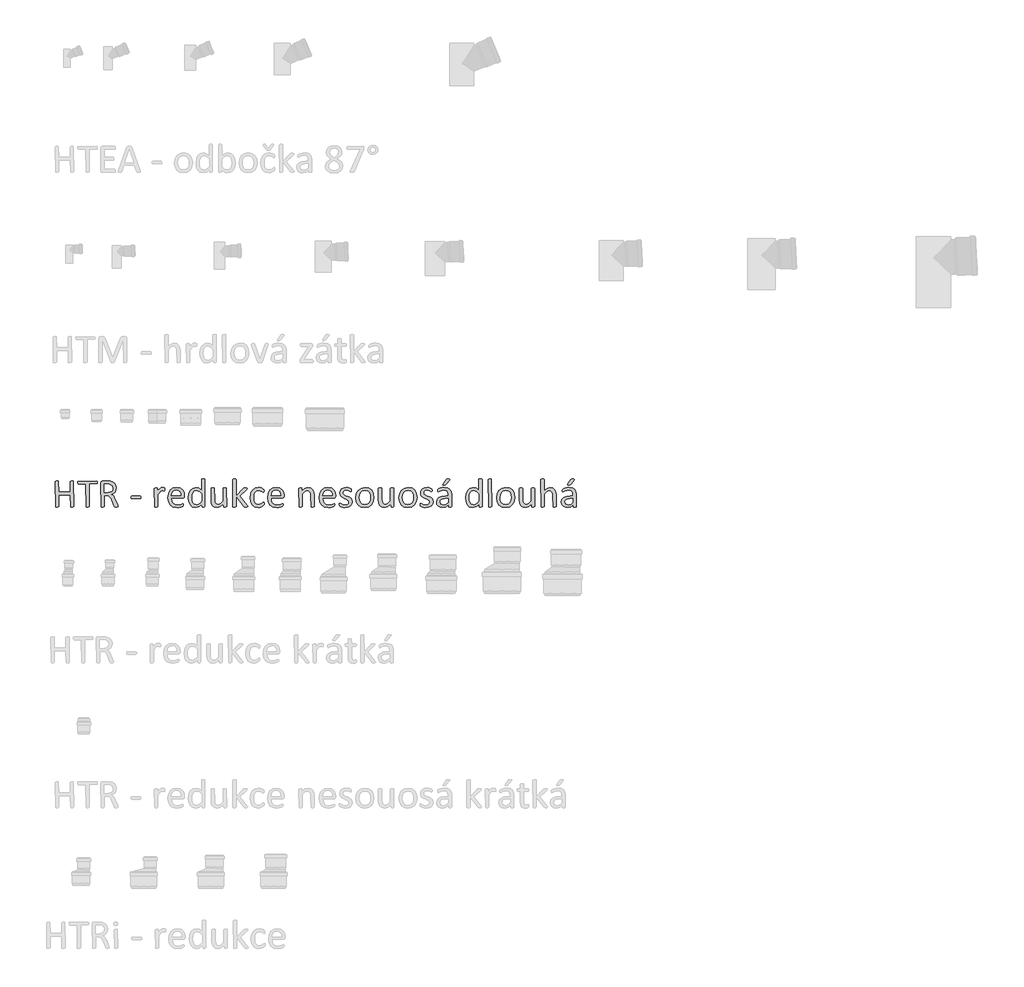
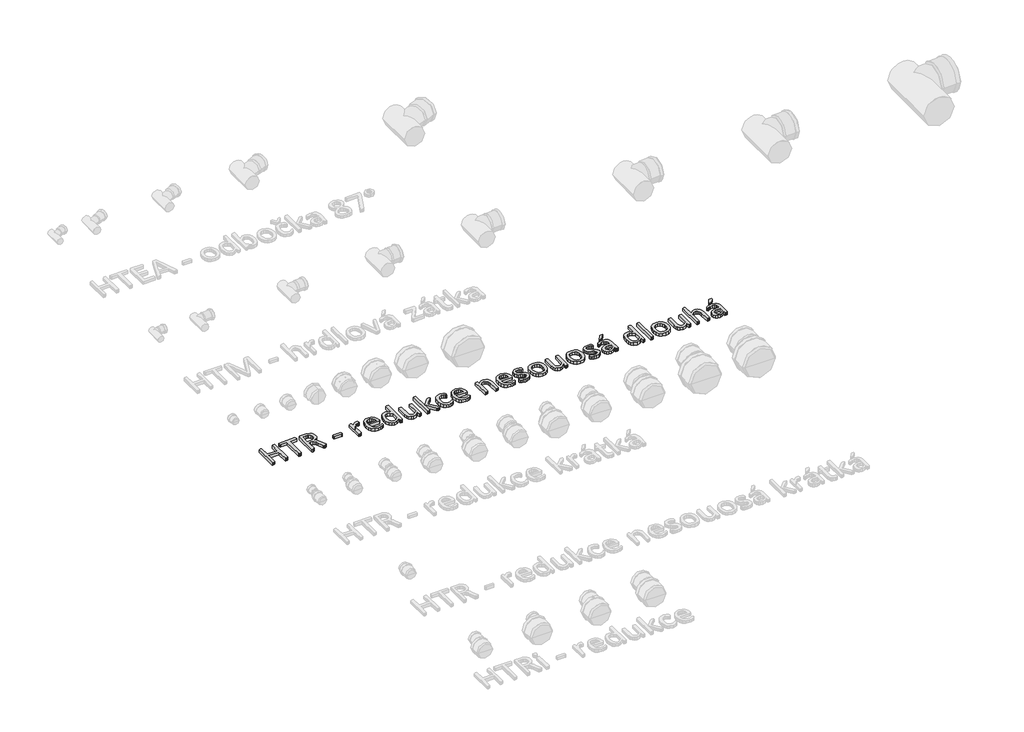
# One storey, part 21 of 26: 1 proxy.
"""IFC4 building model written with IfcOpenShell, lengths in millimetres."""

from ifc_helpers import new_model, si_unit, origin, origin_with_axes, place, context, project, spatial, polyline, outline, extrude, element, save

model = new_model("IFC4")

# Units and contexts
model_context = context("Model", 3, world=origin())
ifc_project = project(units=[si_unit("LENGTHUNIT", "METRE", prefix="MILLI")], contexts=[model_context])

# Site, building, storey
site = spatial("IfcSite", under=ifc_project)
building = spatial("IfcBuilding", under=site)
storey = spatial("IfcBuildingStorey", under=building, Name="Podlaží 1", Elevation=0.0)

# Proxy
placement = place(None, origin())
element("IfcBuildingElementProxy", 1, Name="120mm Arial", ObjectType="120mm Arial", at=placement, inside=storey, context=model_context, shape_type="SweptSolid", body=[
    extrude(outline(polyline([(-20460.0657483, 14581.6352271), (-20464.2817655, 14578.9029584), (-20468.1358927, 14578.66773), (-20472.1166815, 14578.9029584), (-20474.5775327, 14579.4457933), (-20476.2784151, 14634.2540162), (-20529.5486061, 14634.2540162), (-20529.5486061, 14581.5990381), (-20533.7465288, 14578.9029584), (-20537.6549395, 14578.66773), (-20541.5271613, 14578.9029584), (-20544.0603905, 14579.4638877), (-20545.7612729, 14696.1371865), (-20541.5271613, 14698.8694551), (-20537.6549395, 14699.1046835), (-20533.7465288, 14698.8694551), (-20531.2494886, 14698.3085258), (-20529.5486061, 14648.1505878), (-20476.2784151, 14648.1505878), (-20476.2784151, 14696.1371865), (-20472.1166815, 14698.8694551), (-20468.1358927, 14699.1046835), (-20464.2817655, 14698.8694551), (-20461.7666308, 14698.3085258), (-20460.0657483, 14581.6352271)])), origin_with_axes(), (0.0, 0.0, 1.0), 15.0),
    extrude(outline(polyline([(-20351.2092711, 14692.0478308), (-20351.390216, 14688.9174833), (-20351.9873343, 14686.782333), (-20388.2667952, 14685.208112), (-20388.2667952, 14581.6352271), (-20392.4647179, 14578.9029584), (-20396.3731287, 14578.66773), (-20400.2453504, 14578.9029584), (-20402.7785796, 14579.4638877), (-20404.4794621, 14685.208112), (-20438.3885442, 14685.208112), (-20441.3017578, 14688.9174833), (-20441.5369862, 14692.0478308), (-20441.3017578, 14695.2505563), (-20440.686545, 14697.4942735), (-20354.3939021, 14699.1046835), (-20352.0054288, 14697.4942735), (-20351.390216, 14695.2505563), (-20351.2092711, 14692.0478308)])), origin_with_axes(), (0.0, 0.0, 1.0), 15.0),
    extrude(outline(polyline([(-20255.4893967, 14581.5990381), (-20259.5606579, 14578.8486749), (-20264.0299979, 14578.66773), (-20267.9565032, 14578.8486749), (-20270.4173544, 14579.4457933), (-20271.8468194, 14580.5857464), (-20272.7153552, 14582.4313848), (-20283.7529966, 14610.2969059), (-20287.7518799, 14619.0184521), (-20292.6012043, 14625.8762654), (-20299.2056947, 14630.3456055), (-20308.3615088, 14631.937921), (-20318.7839374, 14631.937921), (-20318.7839374, 14581.5990381), (-20322.9818601, 14578.9029584), (-20326.8902709, 14578.66773), (-20330.7986816, 14578.9029584), (-20333.2957218, 14579.4638877), (-20334.9966043, 14692.6268546), (-20333.1328714, 14697.6752185), (-20329.1339881, 14699.1046835), (-20304.0188302, 14699.1046835), (-20296.6000875, 14698.8694551), (-20291.2441172, 14698.3447148), (-20279.1389006, 14694.544871), (-20270.3087874, 14687.9222861), (-20264.9709116, 14678.730283), (-20263.1976512, 14667.3307517), (-20264.7718722, 14656.4740551), (-20269.3316847, 14647.9877374), (-20276.47901, 14641.6184754), (-20285.815769, 14637.0405684), (-20280.4236097, 14633.7654649), (-20275.9180806, 14629.0247074), (-20271.9915754, 14622.6735399), (-20268.2641096, 14614.5672065), (-20257.51598, 14588.3301899), (-20255.8512866, 14583.6979994), (-20255.4893967, 14581.5990381)]), holes=[polyline([(-20279.410318, 14665.5936802), (-20282.5044765, 14677.2103455), (-20292.9088107, 14684.0500643), (-20298.0476471, 14684.9366946), (-20305.5749567, 14685.208112), (-20318.7839374, 14685.208112), (-20318.7839374, 14645.8344925), (-20303.4759953, 14645.8344925), (-20292.7640548, 14647.3182411), (-20285.2367452, 14651.4799747), (-20280.8216886, 14657.7587642), (-20279.410318, 14665.5936802)])]), origin_with_axes(), (0.0, 0.0, 1.0), 15.0),
    extrude(outline(polyline([(-20149.7089835, 14623.8677766), (-20150.5594247, 14619.307964), (-20153.0383704, 14618.0413494), (-20192.6291238, 14618.0413494), (-20195.1804474, 14619.344153), (-20196.0308887, 14623.8677766), (-20195.1804474, 14628.3552111), (-20192.6291238, 14629.6218257), (-20153.0383704, 14629.6218257), (-20149.9442119, 14626.5819507), (-20149.7089835, 14623.8677766)])), origin_with_axes(), (0.0, 0.0, 1.0), 15.0),
    extrude(outline(polyline([(-20038.536411, 14659.7310641), (-20038.6268835, 14656.4378662), (-20038.9887733, 14654.3027158), (-20042.5352942, 14653.0903847), (-20044.869484, 14653.9227315), (-20047.7826975, 14654.7188892), (-20051.2749349, 14655.0988736), (-20055.6899915, 14654.1036764), (-20060.2317096, 14650.8466674), (-20065.2076955, 14644.8392954), (-20070.9617446, 14635.6653868), (-20070.9617446, 14581.4904711), (-20075.0872893, 14578.8486749), (-20079.104267, 14578.66773), (-20083.0488668, 14578.8486749), (-20085.545907, 14579.3915098), (-20087.1744114, 14663.8566088), (-20083.4469456, 14666.5345939), (-20079.7918578, 14666.6793499), (-20076.2091479, 14666.5345939), (-20074.0016197, 14665.9917591), (-20072.5178711, 14651.8418646), (-20066.2571761, 14660.4186549), (-20060.7021664, 14665.6479637), (-20055.5271411, 14668.2716654), (-20050.3340212, 14668.9954451), (-20047.6922251, 14668.8687837), (-20044.5799721, 14668.3802323), (-20041.648664, 14667.5659801), (-20039.8030256, 14666.6793499), (-20038.5726, 14662.9880731), (-20038.536411, 14659.7310641)])), origin_with_axes(), (0.0, 0.0, 1.0), 15.0),
    extrude(outline(polyline([(-19948.2086958, 14626.9800296), (-19950.0000508, 14621.8773822), (-19954.107501, 14620.3574447), (-20008.4271726, 14620.3574447), (-20007.0700855, 14606.967519), (-20002.5645565, 14596.7622242), (-19994.3496561, 14590.2120173), (-19981.9730221, 14587.932111), (-19971.6953493, 14588.9996862), (-19963.8785278, 14591.4062539), (-19958.4682741, 14593.8128217), (-19955.2655486, 14594.8803968), (-19952.9675478, 14591.9852777), (-19952.8408864, 14589.3434816), (-19952.9313588, 14587.4073707), (-19957.3826044, 14582.0152114), (-19963.7337719, 14579.5181712), (-19972.781019, 14577.3287374), (-19983.7462825, 14576.3516347), (-20001.4246033, 14579.2467538), (-20014.1812218, 14587.8597331), (-20021.9980433, 14602.208667), (-20024.6398394, 14622.2392721), (-20021.8713818, 14641.7813258), (-20013.8917099, 14656.4740551), (-20001.2979419, 14665.7565307), (-19984.7595742, 14668.9954451), (-19968.1126395, 14665.8650976), (-19956.8035806, 14657.4330633), (-19950.2895627, 14645.0021458), (-19948.2086958, 14629.7665817), (-19948.2086958, 14626.9800296)]), holes=[polyline([(-19964.4213627, 14631.937921), (-19965.5929812, 14642.5639127), (-19969.6144825, 14650.6295335), (-19976.386347, 14655.71861), (-19985.8090548, 14657.4149688), (-19995.4534202, 14655.3160075), (-20002.3836115, 14649.7248088), (-20006.7081957, 14641.6003809), (-20008.4271726, 14631.937921), (-19964.4213627, 14631.937921)])]), origin_with_axes(), (0.0, 0.0, 1.0), 15.0),
    extrude(outline(polyline([(-19853.5744911, 14581.5628491), (-19856.9581615, 14578.8486749), (-19860.2694539, 14578.66773), (-19863.7074078, 14578.8486749), (-19865.9511251, 14579.3191318), (-19867.6158186, 14591.6233879), (-19881.0600278, 14580.386707), (-19896.3136864, 14576.3516347), (-19911.7301955, 14579.9524391), (-19922.0621517, 14589.687277), (-19927.8523898, 14604.1266834), (-19929.6799338, 14621.5878703), (-19927.4000275, 14641.2203965), (-19920.6688756, 14656.1664487), (-19909.6312342, 14665.6660582), (-19894.39567, 14668.9954451), (-19881.2409727, 14665.7565307), (-19869.461457, 14656.2569212), (-19869.461457, 14705.3653785), (-19867.7967635, 14707.5729068), (-19865.2997233, 14708.1338361), (-19861.4636906, 14708.3690646), (-19857.4467128, 14708.1338361), (-19855.0039561, 14707.5729068), (-19853.683058, 14706.6500876), (-19853.5744911, 14581.5628491)]), holes=[polyline([(-19869.461457, 14639.7547425), (-19881.0781223, 14651.1723683), (-19892.7671656, 14655.0988736), (-19902.3572475, 14652.3485105), (-19908.7626984, 14645.0926183), (-19912.3454083, 14634.8873235), (-19913.4672669, 14623.3249417), (-19912.5263532, 14611.0930636), (-19909.2512498, 14600.48969), (-19903.0629328, 14593.0528529), (-19893.3823784, 14590.2482063), (-19887.7007072, 14591.0624585), (-19882.091414, 14593.7585382), (-19876.1021364, 14598.6440516), (-19869.461457, 14606.0627943), (-19869.461457, 14639.7547425)])]), origin_with_axes(), (0.0, 0.0, 1.0), 15.0),
    extrude(outline(polyline([(-19753.656694, 14581.4904711), (-19757.5108213, 14578.8486749), (-19760.9668697, 14578.66773), (-19764.6581465, 14578.8486749), (-19766.9018638, 14579.3915098), (-19768.3132343, 14592.3833566), (-19782.1917114, 14580.1876675), (-19796.0701885, 14576.3516347), (-19809.894382, 14579.1381869), (-19818.9778181, 14586.6835909), (-19823.953804, 14597.7936104), (-19825.4556471, 14613.228214), (-19825.4556471, 14663.8204198), (-19823.7909536, 14665.9736646), (-19821.2577244, 14666.5345939), (-19817.3493137, 14666.6793499), (-19813.4409029, 14666.5345939), (-19810.9619572, 14665.9917591), (-19809.6410591, 14665.0870344), (-19809.2429802, 14615.7614432), (-19808.2296886, 14604.1628724), (-19805.1174356, 14596.7260352), (-19799.8338432, 14591.9490888), (-19792.3789116, 14590.2482063), (-19781.4317426, 14594.3194675), (-19769.8693608, 14606.2799282), (-19769.8693608, 14663.8566088), (-19768.2046674, 14665.9917591), (-19765.7076272, 14666.5345939), (-19761.7630274, 14666.6793499), (-19757.8546167, 14666.5345939), (-19755.4118599, 14665.9917591), (-19754.0909619, 14665.0870344), (-19753.656694, 14581.4904711)])), origin_with_axes(), (0.0, 0.0, 1.0), 15.0),
    extrude(outline(polyline([(-19656.3806931, 14581.5990381), (-19660.4519543, 14578.8486749), (-19664.4508375, 14578.66773), (-19668.5763822, 14578.812486), (-19671.3267453, 14579.2648483), (-19673.1361947, 14580.169573), (-19674.4028093, 14581.5990381), (-19709.6508841, 14627.1609745), (-19709.6508841, 14581.4904711), (-19713.7764287, 14578.8486749), (-19717.7934065, 14578.66773), (-19721.7380062, 14578.8486749), (-19724.2350464, 14579.4096043), (-19725.8635509, 14705.4015675), (-19721.7380062, 14708.1881196), (-19717.7934065, 14708.3690646), (-19713.7764287, 14708.1881196), (-19711.333672, 14707.6271903), (-19710.0489629, 14706.6862766), (-19709.6508841, 14629.2599358), (-19677.4426844, 14663.4947189), (-19675.8322744, 14664.9965619), (-19673.805691, 14665.9917591), (-19671.0191389, 14666.5345939), (-19667.1288226, 14666.6793499), (-19663.1480339, 14666.5345939), (-19660.5605212, 14666.0822316), (-19659.1310562, 14665.2679793), (-19659.3300956, 14661.739553), (-19661.4471515, 14659.1882293), (-19693.4382172, 14629.3685028), (-19658.6605994, 14585.9055277), (-19656.9054334, 14583.390393), (-19656.3806931, 14581.5990381)])), origin_with_axes(), (0.0, 0.0, 1.0), 15.0),
    extrude(outline(polyline([(-19579.9495495, 14595.3146647), (-19580.040022, 14592.7814355), (-19580.3657229, 14590.9719861), (-19582.3561172, 14587.3349927), (-19586.2464335, 14583.8065664), (-19592.416656, 14580.0610061), (-19599.8534931, 14577.3830209), (-19608.1769605, 14576.3516347), (-19623.8829815, 14579.3553208), (-19635.3367963, 14588.1311505), (-19642.3755546, 14602.281045), (-19644.8002168, 14621.6240593), (-19641.8327197, 14643.0660349), (-19633.7082918, 14657.7406697), (-19621.5668862, 14666.2269875), (-19606.439889, 14668.9954451), (-19598.8040125, 14668.1811929), (-19592.0004827, 14666.0460426), (-19586.4635674, 14663.0061676), (-19582.9532355, 14660.056765), (-19581.4513925, 14658.1206541), (-19580.7638017, 14656.5826221), (-19580.4019119, 14654.6827002), (-19580.3114394, 14652.0228096), (-19581.1256916, 14647.2096741), (-19583.0979915, 14645.8344925), (-19586.228339, 14647.2820521), (-19590.6976791, 14650.4666831), (-19597.2659805, 14653.651314), (-19606.3313221, 14655.0988736), (-19615.8535497, 14652.9999123), (-19622.8515953, 14646.7030283), (-19627.1535613, 14636.4072611), (-19628.58755, 14622.3116501), (-19627.1038014, 14608.3065115), (-19622.7249338, 14598.2459727), (-19615.6137976, 14592.2205062), (-19605.9694322, 14590.2482063), (-19596.9402796, 14592.0757502), (-19590.2091277, 14596.0927279), (-19585.4140868, 14600.0554222), (-19582.3742117, 14601.8286826), (-19580.076211, 14598.2640672), (-19579.9495495, 14595.3146647)])), origin_with_axes(), (0.0, 0.0, 1.0), 15.0),
    extrude(outline(polyline([(-19487.3057391, 14626.9800296), (-19489.097094, 14621.8773822), (-19493.2045442, 14620.3574447), (-19547.5242159, 14620.3574447), (-19546.1671288, 14606.967519), (-19541.6615997, 14596.7622242), (-19533.4466994, 14590.2120173), (-19521.0700653, 14587.932111), (-19510.7923926, 14588.9996862), (-19502.9755711, 14591.4062539), (-19497.5653173, 14593.8128217), (-19494.3625918, 14594.8803968), (-19492.0645911, 14591.9852777), (-19491.9379296, 14589.3434816), (-19492.0284021, 14587.4073707), (-19496.4796477, 14582.0152114), (-19502.8308151, 14579.5181712), (-19511.8780623, 14577.3287374), (-19522.8433257, 14576.3516347), (-19540.5216466, 14579.2467538), (-19553.278265, 14587.8597331), (-19561.0950865, 14602.208667), (-19563.7368827, 14622.2392721), (-19560.9684251, 14641.7813258), (-19552.9887531, 14656.4740551), (-19540.3949851, 14665.7565307), (-19523.8566174, 14668.9954451), (-19507.2096827, 14665.8650976), (-19495.9006239, 14657.4330633), (-19489.3866059, 14645.0021458), (-19487.3057391, 14629.7665817), (-19487.3057391, 14626.9800296)]), holes=[polyline([(-19503.5184059, 14631.937921), (-19504.6900244, 14642.5639127), (-19508.7115258, 14650.6295335), (-19515.4833902, 14655.71861), (-19524.9060981, 14657.4149688), (-19534.5504635, 14655.3160075), (-19541.4806548, 14649.7248088), (-19545.8052389, 14641.6003809), (-19547.5242159, 14631.937921), (-19503.5184059, 14631.937921)])]), origin_with_axes(), (0.0, 0.0, 1.0), 15.0),
    extrude(outline(polyline([(-19348.3400235, 14581.5266601), (-19352.4655682, 14578.8486749), (-19356.4101679, 14578.66773), (-19360.4271456, 14578.8486749), (-19362.8699024, 14579.3915098), (-19364.5526903, 14629.8751486), (-19365.6202655, 14641.238491), (-19368.714424, 14648.6753281), (-19373.9799218, 14653.4522746), (-19381.4529479, 14655.0988736), (-19392.4363059, 14651.0638014), (-19403.9263097, 14639.2119077), (-19403.9263097, 14581.5266601), (-19408.0518544, 14578.8486749), (-19412.0688321, 14578.66773), (-19416.0134319, 14578.8486749), (-19418.5104721, 14579.3915098), (-19420.1389766, 14663.8566088), (-19416.4115108, 14666.5345939), (-19412.7564229, 14666.6793499), (-19409.1737131, 14666.5345939), (-19406.9661848, 14665.9917591), (-19405.4824362, 14652.9637233), (-19391.6401482, 14665.1413179), (-19377.7254821, 14668.9954451), (-19363.9012885, 14666.172704), (-19354.8178524, 14658.6273), (-19349.8418665, 14647.571564), (-19348.3400235, 14632.3359999), (-19348.3400235, 14581.5266601)])), origin_with_axes(), (0.0, 0.0, 1.0), 15.0),
    extrude(outline(polyline([(-19248.7479273, 14626.9800296), (-19250.5392822, 14621.8773822), (-19254.6467324, 14620.3574447), (-19308.9664041, 14620.3574447), (-19307.609317, 14606.967519), (-19303.103788, 14596.7622242), (-19294.8888876, 14590.2120173), (-19282.5122535, 14587.932111), (-19272.2345808, 14588.9996862), (-19264.4177593, 14591.4062539), (-19259.0075055, 14593.8128217), (-19255.8047801, 14594.8803968), (-19253.5067793, 14591.9852777), (-19253.3801178, 14589.3434816), (-19253.4705903, 14587.4073707), (-19257.9218359, 14582.0152114), (-19264.2730034, 14579.5181712), (-19273.3202505, 14577.3287374), (-19284.285514, 14576.3516347), (-19301.9638348, 14579.2467538), (-19314.7204532, 14587.8597331), (-19322.5372747, 14602.208667), (-19325.1790709, 14622.2392721), (-19322.4106133, 14641.7813258), (-19314.4309413, 14656.4740551), (-19301.8371734, 14665.7565307), (-19285.2988056, 14668.9954451), (-19268.651871, 14665.8650976), (-19257.3428121, 14657.4330633), (-19250.8287942, 14645.0021458), (-19248.7479273, 14629.7665817), (-19248.7479273, 14626.9800296)]), holes=[polyline([(-19264.9605941, 14631.937921), (-19266.1322126, 14642.5639127), (-19270.153714, 14650.6295335), (-19276.9255784, 14655.71861), (-19286.3482863, 14657.4149688), (-19295.9926517, 14655.3160075), (-19302.922843, 14649.7248088), (-19307.2474271, 14641.6003809), (-19308.9664041, 14631.937921), (-19264.9605941, 14631.937921)])]), origin_with_axes(), (0.0, 0.0, 1.0), 15.0),
    extrude(outline(polyline([(-19172.3167837, 14603.4209981), (-19174.7233515, 14591.8948053), (-19181.5811648, 14583.3722985), (-19192.1664439, 14578.1248952), (-19205.6830311, 14576.3516347), (-19214.3502938, 14577.1839815), (-19221.714753, 14579.3010373), (-19227.2335737, 14581.9790224), (-19230.5448661, 14584.4941571), (-19232.0648037, 14587.1540478), (-19232.5352605, 14591.3700649), (-19232.3543156, 14594.1023336), (-19231.8838587, 14595.8936885), (-19226.9259673, 14595.7489325), (-19222.0042649, 14592.5643016), (-19215.0740736, 14589.3796706), (-19205.900165, 14587.932111), (-19198.8433123, 14588.8187413), (-19193.3606805, 14591.4424429), (-19189.7779707, 14595.8574995), (-19188.5294506, 14602.1905725), (-19190.3208055, 14608.1798501), (-19195.0796575, 14612.5044342), (-19201.7203368, 14615.8338211), (-19209.3200244, 14618.8736962), (-19216.9739955, 14622.4745005), (-19223.6689583, 14627.3962029), (-19228.4278103, 14634.3263942), (-19230.2191652, 14643.9888541), (-19228.3011489, 14653.4884636), (-19222.5470997, 14661.4500411), (-19212.9570178, 14666.9326728), (-19199.4947141, 14668.9954451), (-19192.7635622, 14668.3802323), (-19186.6838121, 14666.8241058), (-19182.0516216, 14664.7975225), (-19179.1565026, 14662.8795061), (-19177.853699, 14661.5043245), (-19177.0937302, 14658.6634889), (-19176.9489743, 14656.2569212), (-19177.0937302, 14653.6332196), (-19177.5641871, 14651.8056756), (-19181.9430547, 14651.5704472), (-19186.1590718, 14653.940826), (-19192.2388219, 14656.3112047), (-19200.2184938, 14657.4149688), (-19207.3115356, 14656.4921496), (-19212.341805, 14653.868448), (-19215.309302, 14649.8514703), (-19216.3225937, 14644.8212009), (-19214.4045773, 14638.6871673), (-19209.3924024, 14634.3263942), (-19202.3536441, 14630.9608183), (-19194.3196887, 14627.8847543), (-19186.2314498, 14624.3201389), (-19179.1565026, 14619.5431924), (-19174.1986111, 14612.7939461), (-19172.3167837, 14603.4209981)])), origin_with_axes(), (0.0, 0.0, 1.0), 15.0),
    extrude(outline(polyline([(-19072.7246876, 14623.5782647), (-19075.4026727, 14604.5971402), (-19083.4185336, 14589.651088), (-19096.7722704, 14579.8619666), (-19115.3553159, 14576.3516347), (-19133.2688652, 14579.4457933), (-19146.0073891, 14588.4387569), (-19153.6070767, 14602.7695963), (-19156.1041169, 14621.8773822), (-19153.4623208, 14640.8585066), (-19145.5007433, 14655.7864644), (-19132.2012901, 14665.5213023), (-19113.5820555, 14668.9954451), (-19095.6504117, 14665.9012866), (-19082.9118878, 14656.908323), (-19075.2760112, 14642.5774836), (-19072.7246876, 14623.5782647)]), holes=[polyline([(-19088.9373544, 14622.492595), (-19090.1858745, 14635.0682685), (-19094.2933247, 14645.4545082), (-19102.0196737, 14652.5113609), (-19114.1972683, 14655.0988736), (-19125.7596501, 14652.7284948), (-19133.7212276, 14646.033532), (-19138.3715126, 14635.7920483), (-19139.8914501, 14622.8544849), (-19138.64293, 14610.2064334), (-19134.4992908, 14599.8563827), (-19126.7186583, 14592.835719), (-19114.5591582, 14590.2482063), (-19103.0329654, 14592.618585), (-19095.0171044, 14599.2592644), (-19090.4030084, 14609.4645592), (-19088.9373544, 14622.492595)])]), origin_with_axes(), (0.0, 0.0, 1.0), 15.0),
    extrude(outline(polyline([(-18980.0808772, 14581.4904711), (-18983.9350044, 14578.8486749), (-18987.3910528, 14578.66773), (-18991.0823296, 14578.8486749), (-18993.3260469, 14579.3915098), (-18994.7374175, 14592.3833566), (-19008.6158945, 14580.1876675), (-19022.4943716, 14576.3516347), (-19036.3185652, 14579.1381869), (-19045.4020013, 14586.6835909), (-19050.3779872, 14597.7936104), (-19051.8798302, 14613.228214), (-19051.8798302, 14663.8204198), (-19050.2151368, 14665.9736646), (-19047.6819076, 14666.5345939), (-19043.7734968, 14666.6793499), (-19039.8650861, 14666.5345939), (-19037.3861404, 14665.9917591), (-19036.0652423, 14665.0870344), (-19035.6671634, 14615.7614432), (-19034.6538717, 14604.1628724), (-19031.5416187, 14596.7260352), (-19026.2580264, 14591.9490888), (-19018.8030948, 14590.2482063), (-19007.8559258, 14594.3194675), (-18996.293544, 14606.2799282), (-18996.293544, 14663.8566088), (-18994.6288505, 14665.9917591), (-18992.1318103, 14666.5345939), (-18988.1872106, 14666.6793499), (-18984.2787998, 14666.5345939), (-18981.8360431, 14665.9917591), (-18980.515145, 14665.0870344), (-18980.0808772, 14581.4904711)])), origin_with_axes(), (0.0, 0.0, 1.0), 15.0),
    extrude(outline(polyline([(-18873.5404952, 14623.5782647), (-18876.2184803, 14604.5971402), (-18884.2343413, 14589.651088), (-18897.588078, 14579.8619666), (-18916.1711236, 14576.3516347), (-18934.0846729, 14579.4457933), (-18946.8231968, 14588.4387569), (-18954.4228844, 14602.7695963), (-18956.9199246, 14621.8773822), (-18954.2781284, 14640.8585066), (-18946.3165509, 14655.7864644), (-18933.0170977, 14665.5213023), (-18914.3978631, 14668.9954451), (-18896.4662194, 14665.9012866), (-18883.7276954, 14656.908323), (-18876.0918189, 14642.5774836), (-18873.5404952, 14623.5782647)]), holes=[polyline([(-18889.753162, 14622.492595), (-18891.0016821, 14635.0682685), (-18895.1091323, 14645.4545082), (-18902.8354813, 14652.5113609), (-18915.0130759, 14655.0988736), (-18926.5754578, 14652.7284948), (-18934.5370352, 14646.033532), (-18939.1873202, 14635.7920483), (-18940.7072577, 14622.8544849), (-18939.4587376, 14610.2064334), (-18935.3150985, 14599.8563827), (-18927.5344659, 14592.835719), (-18915.3749658, 14590.2482063), (-18903.848773, 14592.618585), (-18895.8329121, 14599.2592644), (-18891.2188161, 14609.4645592), (-18889.753162, 14622.492595)])]), origin_with_axes(), (0.0, 0.0, 1.0), 15.0),
    extrude(outline(polyline([(-18799.4254469, 14603.4209981), (-18801.8320146, 14591.8948053), (-18808.6898279, 14583.3722985), (-18819.275107, 14578.1248952), (-18832.7916942, 14576.3516347), (-18841.4589569, 14577.1839815), (-18848.8234161, 14579.3010373), (-18854.3422368, 14581.9790224), (-18857.6535293, 14584.4941571), (-18859.1734668, 14587.1540478), (-18859.6439236, 14591.3700649), (-18859.4629787, 14594.1023336), (-18858.9925218, 14595.8936885), (-18854.0346304, 14595.7489325), (-18849.112928, 14592.5643016), (-18842.1827367, 14589.3796706), (-18833.0088281, 14587.932111), (-18825.9519754, 14588.8187413), (-18820.4693437, 14591.4424429), (-18816.8866338, 14595.8574995), (-18815.6381137, 14602.1905725), (-18817.4294686, 14608.1798501), (-18822.1883206, 14612.5044342), (-18828.829, 14615.8338211), (-18836.4286876, 14618.8736962), (-18844.0826586, 14622.4745005), (-18850.7776215, 14627.3962029), (-18855.5364735, 14634.3263942), (-18857.3278284, 14643.9888541), (-18855.409812, 14653.4884636), (-18849.6557628, 14661.4500411), (-18840.0656809, 14666.9326728), (-18826.6033772, 14668.9954451), (-18819.8722253, 14668.3802323), (-18813.7924753, 14666.8241058), (-18809.1602848, 14664.7975225), (-18806.2651657, 14662.8795061), (-18804.9623621, 14661.5043245), (-18804.2023934, 14658.6634889), (-18804.0576374, 14656.2569212), (-18804.2023934, 14653.6332196), (-18804.6728502, 14651.8056756), (-18809.0517178, 14651.5704472), (-18813.267735, 14653.940826), (-18819.347485, 14656.3112047), (-18827.327157, 14657.4149688), (-18834.4201987, 14656.4921496), (-18839.4504681, 14653.868448), (-18842.4179651, 14649.8514703), (-18843.4312568, 14644.8212009), (-18841.5132404, 14638.6871673), (-18836.5010655, 14634.3263942), (-18829.4623073, 14630.9608183), (-18821.4283518, 14627.8847543), (-18813.3401129, 14624.3201389), (-18806.2651657, 14619.5431924), (-18801.3072743, 14612.7939461), (-18799.4254469, 14603.4209981)])), origin_with_axes(), (0.0, 0.0, 1.0), 15.0),
    extrude(outline(polyline([(-18739.2431591, 14705.0758666), (-18737.9041665, 14706.6681821), (-18736.0404336, 14707.6452848), (-18733.308165, 14708.1881196), (-18729.3997543, 14708.3690646), (-18725.0570756, 14708.0614582), (-18722.7409804, 14707.1748279), (-18722.9943033, 14704.2435199), (-18740.2926398, 14683.4348515), (-18741.6859158, 14682.0053865), (-18743.1153809, 14681.1549453), (-18745.2143422, 14680.7025829), (-18748.4351622, 14680.5759214), (-18751.7645491, 14680.8473389), (-18753.5016206, 14681.5711186), (-18753.1035417, 14684.4119542), (-18739.2431591, 14705.0758666)])), origin_with_axes(), (0.0, 0.0, 1.0), 15.0),
    extrude(outline(polyline([(-18713.7299223, 14581.4542821), (-18714.52608, 14579.7714942), (-18716.6974193, 14578.9391474), (-18720.750586, 14578.66773), (-18724.8580362, 14578.9391474), (-18727.083659, 14579.7714942), (-18727.7712498, 14581.4542821), (-18727.7712498, 14589.7777495), (-18739.9669389, 14580.1514785), (-18754.2254003, 14576.3516347), (-18766.185861, 14578.0706117), (-18775.2873916, 14583.0465976), (-18781.1319132, 14591.044364), (-18783.2127801, 14601.8286826), (-18780.3357555, 14614.0967497), (-18772.0846661, 14622.7459179), (-18758.9299688, 14627.9028488), (-18741.4144984, 14629.6218257), (-18729.9425891, 14629.6218257), (-18729.9425891, 14636.5339225), (-18730.9558808, 14645.5811696), (-18734.2128897, 14652.1313765), (-18740.0212224, 14656.0759763), (-18748.7970521, 14657.4149688), (-18758.8394963, 14655.9674093), (-18766.6201289, 14652.7827783), (-18772.2113276, 14649.5981473), (-18775.5407145, 14648.1505878), (-18778.3996446, 14651.6790142), (-18778.5805895, 14654.3389048), (-18778.2548886, 14658.1387486), (-18776.6625732, 14660.7986393), (-18772.3198945, 14663.5128134), (-18765.2268528, 14666.1907985), (-18756.4510231, 14668.1992874), (-18746.8428467, 14668.9954451), (-18731.4625266, 14666.9507673), (-18721.2029484, 14660.9795842), (-18715.5031827, 14651.2266518), (-18713.7299223, 14637.6195922), (-18713.7299223, 14581.4542821)]), holes=[polyline([(-18729.9425891, 14618.0413494), (-18742.825869, 14618.0413494), (-18753.5739985, 14616.9737743), (-18761.1555916, 14613.8253323), (-18765.5887427, 14608.8312519), (-18767.0001132, 14602.1181945), (-18762.9469465, 14591.7681438), (-18751.5836042, 14587.932111), (-18740.5821517, 14590.9900806), (-18729.9425891, 14600.3449341), (-18729.9425891, 14618.0413494)])]), origin_with_axes(), (0.0, 0.0, 1.0), 15.0),
    extrude(outline(polyline([(-18572.7738123, 14581.5628491), (-18576.1574827, 14578.8486749), (-18579.4687752, 14578.66773), (-18582.9067291, 14578.8486749), (-18585.1504463, 14579.3191318), (-18586.8151398, 14591.6233879), (-18600.259349, 14580.386707), (-18615.5130076, 14576.3516347), (-18630.9295167, 14579.9524391), (-18641.2614729, 14589.687277), (-18647.0517111, 14604.1266834), (-18648.879255, 14621.5878703), (-18646.5993487, 14641.2203965), (-18639.8681969, 14656.1664487), (-18628.8305554, 14665.6660582), (-18613.5949913, 14668.9954451), (-18600.440294, 14665.7565307), (-18588.6607782, 14656.2569212), (-18588.6607782, 14705.3653785), (-18586.9960847, 14707.5729068), (-18584.4990445, 14708.1338361), (-18580.6630118, 14708.3690646), (-18576.6460341, 14708.1338361), (-18574.2032773, 14707.5729068), (-18572.8823793, 14706.6500876), (-18572.7738123, 14581.5628491)]), holes=[polyline([(-18588.6607782, 14639.7547425), (-18600.2774435, 14651.1723683), (-18611.9664868, 14655.0988736), (-18621.5565687, 14652.3485105), (-18627.9620197, 14645.0926183), (-18631.5447295, 14634.8873235), (-18632.6665882, 14623.3249417), (-18631.7256745, 14611.0930636), (-18628.450571, 14600.48969), (-18622.262254, 14593.0528529), (-18612.5816996, 14590.2482063), (-18606.9000284, 14591.0624585), (-18601.2907352, 14593.7585382), (-18595.3014576, 14598.6440516), (-18588.6607782, 14606.0627943), (-18588.6607782, 14639.7547425)])]), origin_with_axes(), (0.0, 0.0, 1.0), 15.0),
    extrude(outline(polyline([(-18528.4423015, 14581.5266601), (-18532.5678461, 14578.8486749), (-18536.5848239, 14578.66773), (-18540.5294236, 14578.8486749), (-18543.0264638, 14579.4096043), (-18544.6549683, 14705.4015675), (-18540.5294236, 14708.1881196), (-18536.5848239, 14708.3690646), (-18532.5678461, 14708.1881196), (-18530.1250894, 14707.6271903), (-18528.4423015, 14581.5266601)])), origin_with_axes(), (0.0, 0.0, 1.0), 15.0),
    extrude(outline(polyline([(-18421.9019195, 14623.5782647), (-18424.5799046, 14604.5971402), (-18432.5957656, 14589.651088), (-18445.9495023, 14579.8619666), (-18464.5325479, 14576.3516347), (-18482.4460972, 14579.4457933), (-18495.1846211, 14588.4387569), (-18502.7843087, 14602.7695963), (-18505.2813489, 14621.8773822), (-18502.6395527, 14640.8585066), (-18494.6779752, 14655.7864644), (-18481.378522, 14665.5213023), (-18462.7592874, 14668.9954451), (-18444.8276437, 14665.9012866), (-18432.0891197, 14656.908323), (-18424.4532432, 14642.5774836), (-18421.9019195, 14623.5782647)]), holes=[polyline([(-18438.1145863, 14622.492595), (-18439.3631064, 14635.0682685), (-18443.4705566, 14645.4545082), (-18451.1969056, 14652.5113609), (-18463.3745002, 14655.0988736), (-18474.9368821, 14652.7284948), (-18482.8984595, 14646.033532), (-18487.5487445, 14635.7920483), (-18489.068682, 14622.8544849), (-18487.8201619, 14610.2064334), (-18483.6765228, 14599.8563827), (-18475.8958902, 14592.835719), (-18463.7363901, 14590.2482063), (-18452.2101973, 14592.618585), (-18444.1943364, 14599.2592644), (-18439.5802403, 14609.4645592), (-18438.1145863, 14622.492595)])]), origin_with_axes(), (0.0, 0.0, 1.0), 15.0),
    extrude(outline(polyline([(-18329.2581091, 14581.4904711), (-18333.1122364, 14578.8486749), (-18336.5682848, 14578.66773), (-18340.2595616, 14578.8486749), (-18342.5032789, 14579.3915098), (-18343.9146494, 14592.3833566), (-18357.7931265, 14580.1876675), (-18371.6716035, 14576.3516347), (-18385.4957971, 14579.1381869), (-18394.5792332, 14586.6835909), (-18399.5552191, 14597.7936104), (-18401.0570622, 14613.228214), (-18401.0570622, 14663.8204198), (-18399.3923687, 14665.9736646), (-18396.8591395, 14666.5345939), (-18392.9507287, 14666.6793499), (-18389.042318, 14666.5345939), (-18386.5633723, 14665.9917591), (-18385.2424742, 14665.0870344), (-18384.8443953, 14615.7614432), (-18383.8311037, 14604.1628724), (-18380.7188507, 14596.7260352), (-18375.4352583, 14591.9490888), (-18367.9803267, 14590.2482063), (-18357.0331577, 14594.3194675), (-18345.4707759, 14606.2799282), (-18345.4707759, 14663.8566088), (-18343.8060824, 14665.9917591), (-18341.3090422, 14666.5345939), (-18337.3644425, 14666.6793499), (-18333.4560318, 14666.5345939), (-18331.013275, 14665.9917591), (-18329.692377, 14665.0870344), (-18329.2581091, 14581.4904711)])), origin_with_axes(), (0.0, 0.0, 1.0), 15.0),
    extrude(outline(polyline([(-18229.6660129, 14581.5266601), (-18233.7915576, 14578.8486749), (-18237.7361573, 14578.66773), (-18241.7531351, 14578.8486749), (-18244.1958918, 14579.3915098), (-18245.8786797, 14629.8751486), (-18246.9462549, 14641.238491), (-18250.0404134, 14648.6753281), (-18255.3059112, 14653.4522746), (-18262.7789373, 14655.0988736), (-18273.7622953, 14651.0638014), (-18285.2522992, 14639.2119077), (-18285.2522992, 14581.5266601), (-18289.3778438, 14578.8486749), (-18293.3948216, 14578.66773), (-18297.3394213, 14578.8486749), (-18299.8364615, 14579.4096043), (-18301.464966, 14705.4015675), (-18297.3394213, 14708.1881196), (-18293.3948216, 14708.3690646), (-18289.3778438, 14708.1881196), (-18286.9350871, 14707.6271903), (-18285.650378, 14706.6862766), (-18285.2522992, 14655.3160075), (-18272.2242633, 14665.6298692), (-18259.0152825, 14668.9954451), (-18245.191089, 14666.172704), (-18236.1257474, 14658.6273), (-18231.1678559, 14647.571564), (-18229.6660129, 14632.2636219), (-18229.6660129, 14581.5266601)])), origin_with_axes(), (0.0, 0.0, 1.0), 15.0),
    extrude(outline(polyline([(-18162.5354394, 14705.0758666), (-18161.1964468, 14706.6681821), (-18159.3327139, 14707.6452848), (-18156.6004453, 14708.1881196), (-18152.6920345, 14708.3690646), (-18148.3493559, 14708.0614582), (-18146.0332606, 14707.1748279), (-18146.2865836, 14704.2435199), (-18163.58492, 14683.4348515), (-18164.9781961, 14682.0053865), (-18166.4076611, 14681.1549453), (-18168.5066225, 14680.7025829), (-18171.7274424, 14680.5759214), (-18175.0568294, 14680.8473389), (-18176.7939008, 14681.5711186), (-18176.3958219, 14684.4119542), (-18162.5354394, 14705.0758666)])), origin_with_axes(), (0.0, 0.0, 1.0), 15.0),
    extrude(outline(polyline([(-18137.0222025, 14581.4542821), (-18137.8183603, 14579.7714942), (-18139.9896996, 14578.9391474), (-18144.0428663, 14578.66773), (-18148.1503165, 14578.9391474), (-18150.3759392, 14579.7714942), (-18151.06353, 14581.4542821), (-18151.06353, 14589.7777495), (-18163.2592191, 14580.1514785), (-18177.5176806, 14576.3516347), (-18189.4781413, 14578.0706117), (-18198.5796718, 14583.0465976), (-18204.4241935, 14591.044364), (-18206.5050603, 14601.8286826), (-18203.6280357, 14614.0967497), (-18195.3769464, 14622.7459179), (-18182.2222491, 14627.9028488), (-18164.7067787, 14629.6218257), (-18153.2348693, 14629.6218257), (-18153.2348693, 14636.5339225), (-18154.248161, 14645.5811696), (-18157.50517, 14652.1313765), (-18163.3135026, 14656.0759763), (-18172.0893323, 14657.4149688), (-18182.1317766, 14655.9674093), (-18189.9124091, 14652.7827783), (-18195.5036078, 14649.5981473), (-18198.8329948, 14648.1505878), (-18201.6919249, 14651.6790142), (-18201.8728698, 14654.3389048), (-18201.5471689, 14658.1387486), (-18199.9548534, 14660.7986393), (-18195.6121748, 14663.5128134), (-18188.5191331, 14666.1907985), (-18179.7433034, 14668.1992874), (-18170.1351269, 14668.9954451), (-18154.7548069, 14666.9507673), (-18144.4952286, 14660.9795842), (-18138.7954629, 14651.2266518), (-18137.0222025, 14637.6195922), (-18137.0222025, 14581.4542821)]), holes=[polyline([(-18153.2348693, 14618.0413494), (-18166.1181492, 14618.0413494), (-18176.8662788, 14616.9737743), (-18184.4478719, 14613.8253323), (-18188.8810229, 14608.8312519), (-18190.2923935, 14602.1181945), (-18186.2392268, 14591.7681438), (-18174.8758844, 14587.932111), (-18163.8744319, 14590.9900806), (-18153.2348693, 14600.3449341), (-18153.2348693, 14618.0413494)])]), origin_with_axes(), (0.0, 0.0, 1.0), 15.0),
])

save(model, "model.ifc")
